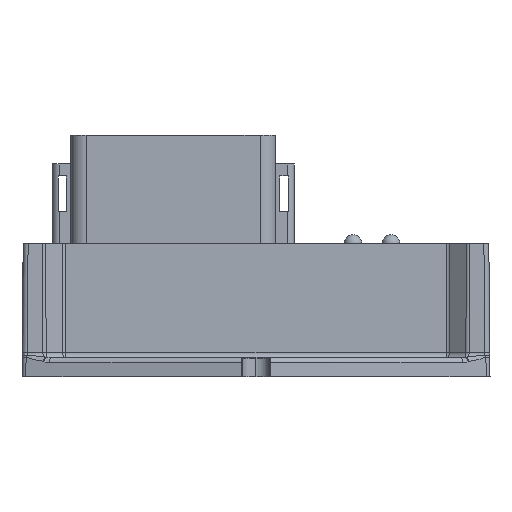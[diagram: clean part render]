
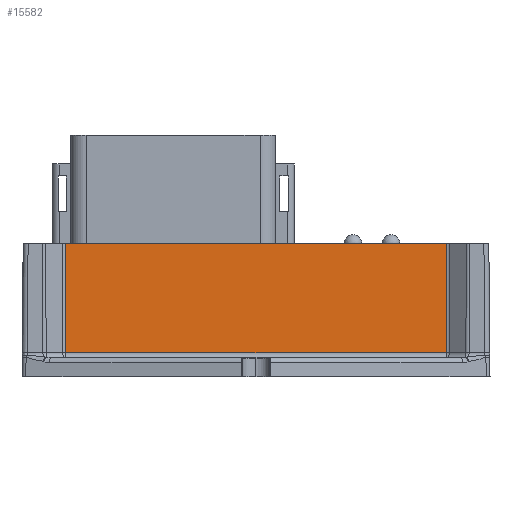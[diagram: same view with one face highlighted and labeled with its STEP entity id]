
A CAD part, left-side view. The second image highlights one B-rep face of the part: STEP entity #15582.
In plain terms, the highlighted planar face has unit normal (-1, 0, 0.009).
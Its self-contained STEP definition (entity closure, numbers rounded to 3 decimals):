
#2111 = EDGE_LOOP ( 'NONE', ( #28097, #118839, #128932, #119335 ) ) ;
#12021 = VERTEX_POINT ( 'NONE', #38988 ) ;
#12970 = EDGE_CURVE ( 'NONE', #119023, #157334, #138680, .T. ) ;
#14158 = CARTESIAN_POINT ( 'NONE',  ( -39.252, 31.812, 22.225 ) ) ;
#14967 = VECTOR ( 'NONE', #138101, 1000. ) ;
#15582 = ADVANCED_FACE ( 'NONE', ( #92306 ), #189756, .T. ) ;
#20269 = AXIS2_PLACEMENT_3D ( 'NONE', #82917, #84943, #50806 ) ;
#21150 = DIRECTION ( 'NONE',  ( 0., -1., 0. ) ) ;
#24795 = VERTEX_POINT ( 'NONE', #128671 ) ;
#28097 = ORIENTED_EDGE ( 'NONE', *, *, #134737, .T. ) ;
#38988 = CARTESIAN_POINT ( 'NONE',  ( -39.411, 31.754, 3.993 ) ) ;
#44779 = CARTESIAN_POINT ( 'NONE',  ( -39.252, -31.812, 22.226 ) ) ;
#50806 = DIRECTION ( 'NONE',  ( 0.009, 0., 1. ) ) ;
#52295 = LINE ( 'NONE', #178804, #72680 ) ;
#59330 = LINE ( 'NONE', #44779, #14967 ) ;
#66919 = EDGE_CURVE ( 'NONE', #24795, #119023, #59330, .T. ) ;
#72680 = VECTOR ( 'NONE', #21150, 1000. ) ;
#82917 = CARTESIAN_POINT ( 'NONE',  ( -39.446, 39.091, 0. ) ) ;
#84943 = DIRECTION ( 'NONE',  ( -1., 0., 0.009 ) ) ;
#86350 = CARTESIAN_POINT ( 'NONE',  ( -39.418, 31.751, 3.176 ) ) ;
#92306 = FACE_OUTER_BOUND ( 'NONE', #2111, .T. ) ;
#100865 = DIRECTION ( 'NONE',  ( -0.009, -0.003, -1. ) ) ;
#109344 = VECTOR ( 'NONE', #202941, 1000. ) ;
#118839 = ORIENTED_EDGE ( 'NONE', *, *, #66919, .T. ) ;
#119023 = VERTEX_POINT ( 'NONE', #148736 ) ;
#119335 = ORIENTED_EDGE ( 'NONE', *, *, #161821, .T. ) ;
#128671 = CARTESIAN_POINT ( 'NONE',  ( -39.411, -31.754, 3.993 ) ) ;
#128932 = ORIENTED_EDGE ( 'NONE', *, *, #12970, .T. ) ;
#134737 = EDGE_CURVE ( 'NONE', #12021, #24795, #52295, .T. ) ;
#138101 = DIRECTION ( 'NONE',  ( 0.009, -0.003, 1. ) ) ;
#138680 = LINE ( 'NONE', #201918, #109344 ) ;
#148527 = VECTOR ( 'NONE', #100865, 1000. ) ;
#148736 = CARTESIAN_POINT ( 'NONE',  ( -39.252, -31.812, 22.225 ) ) ;
#157334 = VERTEX_POINT ( 'NONE', #14158 ) ;
#161821 = EDGE_CURVE ( 'NONE', #157334, #12021, #197304, .T. ) ;
#178804 = CARTESIAN_POINT ( 'NONE',  ( -39.411, -32.052, 3.993 ) ) ;
#189756 = PLANE ( 'NONE',  #20269 ) ;
#197304 = LINE ( 'NONE', #86350, #148527 ) ;
#201918 = CARTESIAN_POINT ( 'NONE',  ( -39.252, -39.091, 22.225 ) ) ;
#202941 = DIRECTION ( 'NONE',  ( 0., 1., 0. ) ) ;
